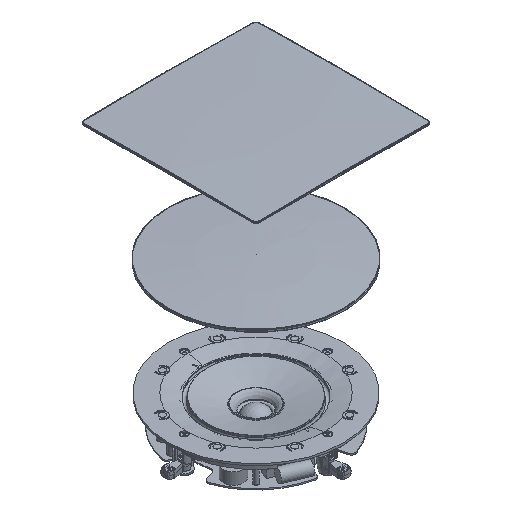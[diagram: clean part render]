
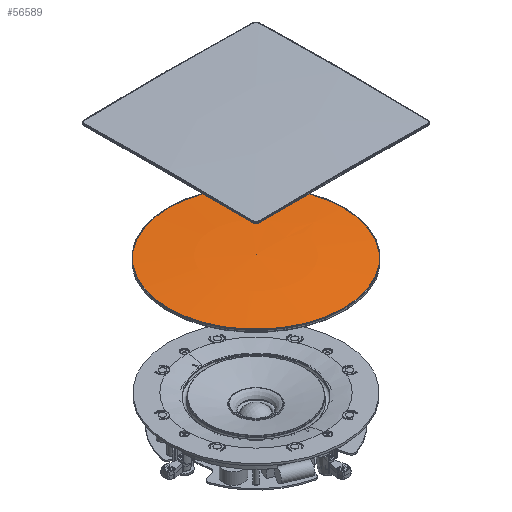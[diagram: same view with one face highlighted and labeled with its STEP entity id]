
A CAD part, isometric view. The second image highlights one B-rep face of the part: STEP entity #56589.
In plain terms, the highlighted spherical face has radius 1612.28 mm.
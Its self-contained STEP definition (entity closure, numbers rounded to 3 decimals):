
#3921=SPHERICAL_SURFACE('',#59984,1612.281);
#4273=FACE_OUTER_BOUND('',#7617,.T.);
#7617=EDGE_LOOP('',(#37227,#37228,#37229,#37230));
#19704=CIRCLE('',#59982,112.756);
#19705=CIRCLE('',#59983,112.756);
#19706=CIRCLE('',#59985,1612.281);
#22788=VERTEX_POINT('',#83012);
#22789=VERTEX_POINT('',#83014);
#22790=VERTEX_POINT('',#83018);
#28387=EDGE_CURVE('',#22789,#22788,#19704,.T.);
#28388=EDGE_CURVE('',#22788,#22789,#19705,.T.);
#28389=EDGE_CURVE('',#22789,#22790,#19706,.T.);
#37227=ORIENTED_EDGE('',*,*,#28387,.T.);
#37228=ORIENTED_EDGE('',*,*,#28388,.T.);
#37229=ORIENTED_EDGE('',*,*,#28389,.T.);
#37230=ORIENTED_EDGE('',*,*,#28389,.F.);
#56589=ADVANCED_FACE('',(#4273),#3921,.T.);
#59982=AXIS2_PLACEMENT_3D('',#83015,#66247,#66248);
#59983=AXIS2_PLACEMENT_3D('',#83016,#66249,#66250);
#59984=AXIS2_PLACEMENT_3D('',#83017,#66251,#66252);
#59985=AXIS2_PLACEMENT_3D('',#83019,#66253,#66254);
#66247=DIRECTION('center_axis',(0.,1.,0.));
#66248=DIRECTION('ref_axis',(-1.,0.,0.));
#66249=DIRECTION('center_axis',(0.,1.,0.));
#66250=DIRECTION('ref_axis',(-1.,0.,0.));
#66251=DIRECTION('center_axis',(0.,-1.,0.));
#66252=DIRECTION('ref_axis',(-1.,0.,0.));
#66253=DIRECTION('center_axis',(0.,0.,1.));
#66254=DIRECTION('ref_axis',(1.,0.,0.));
#83012=CARTESIAN_POINT('',(112.756,3.052,0.217));
#83014=CARTESIAN_POINT('',(112.756,3.052,0.));
#83015=CARTESIAN_POINT('Origin',(0.,3.052,0.));
#83016=CARTESIAN_POINT('Origin',(0.,3.052,0.));
#83017=CARTESIAN_POINT('Origin',(0.,-1605.281,0.));
#83018=CARTESIAN_POINT('',(0.,7.,0.));
#83019=CARTESIAN_POINT('Origin',(0.,-1605.281,0.));
